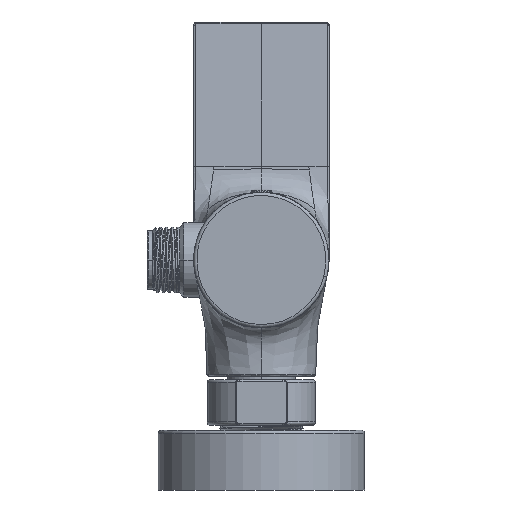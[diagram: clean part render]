
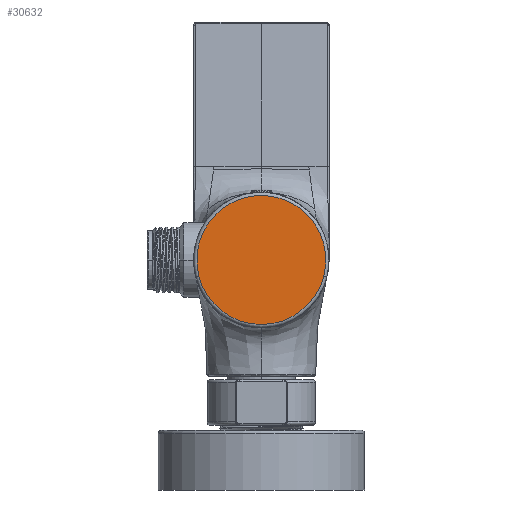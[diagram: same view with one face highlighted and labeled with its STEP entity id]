
A CAD part, left-side view. The second image highlights one B-rep face of the part: STEP entity #30632.
In plain terms, the highlighted planar face has unit normal (-1, 0, 0).
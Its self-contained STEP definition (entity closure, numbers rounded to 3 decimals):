
#13995=CARTESIAN_POINT('',(-26.,0.,0.));
#13996=DIRECTION('',(1.,0.,0.));
#13997=DIRECTION('',(0.,-0.969,-0.249));
#13998=AXIS2_PLACEMENT_3D('',#13995,#13996,#13997);
#14000=CARTESIAN_POINT('',(-26.,0.,0.));
#14001=DIRECTION('',(1.,0.,0.));
#14002=DIRECTION('',(0.,0.969,-0.249));
#14003=AXIS2_PLACEMENT_3D('',#14000,#14001,#14002);
#14028=CARTESIAN_POINT('',(-26.,-19.372,-4.974));
#14029=CARTESIAN_POINT('',(-26.,19.372,-4.974));
#14030=VERTEX_POINT('',#14028);
#14031=VERTEX_POINT('',#14029);
#30623=CARTESIAN_POINT('',(-26.,0.,0.));
#30624=DIRECTION('',(1.,0.,0.));
#30625=DIRECTION('',(0.,-1.,0.));
#30626=AXIS2_PLACEMENT_3D('',#30623,#30624,#30625);
#30627=PLANE('',#30626);
#30628=ORIENTED_EDGE('',*,*,#30602,.T.);
#30629=ORIENTED_EDGE('',*,*,#30617,.T.);
#30630=EDGE_LOOP('',(#30628,#30629));
#30631=FACE_OUTER_BOUND('',#30630,.F.);
#30632=ADVANCED_FACE('',(#30631),#30627,.F.);
#13999=CIRCLE('',#13998,20.);
#14004=CIRCLE('',#14003,20.);
#30602=EDGE_CURVE('',#14030,#14031,#13999,.T.);
#30617=EDGE_CURVE('',#14031,#14030,#14004,.T.);
